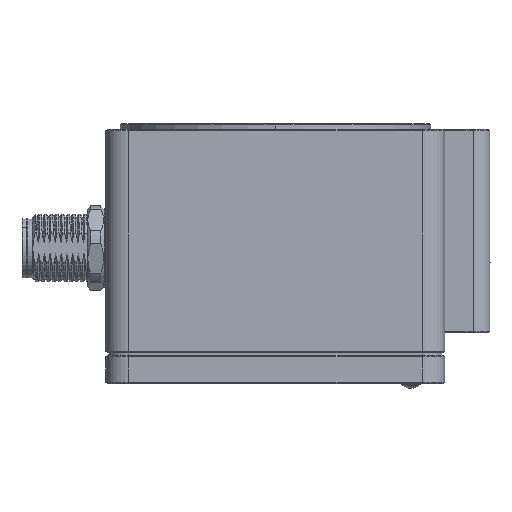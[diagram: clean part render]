
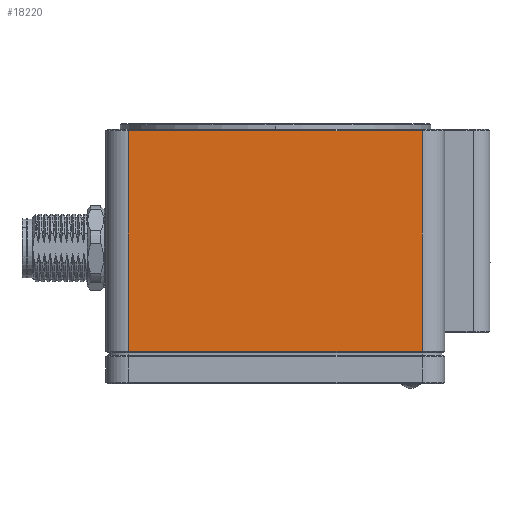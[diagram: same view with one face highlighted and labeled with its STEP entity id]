
A CAD part, left-side view. The second image highlights one B-rep face of the part: STEP entity #18220.
In plain terms, the highlighted planar face has unit normal (-1, 0, 0).
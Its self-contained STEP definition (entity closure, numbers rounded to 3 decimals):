
#2843=DIRECTION('',(0.,0.,1.));
#2844=VECTOR('',#2843,39.1);
#2845=CARTESIAN_POINT('',(-30.,-26.,
-29.3));
#2846=LINE('',#2845,#2844);
#2857=DIRECTION('',(0.,1.,0.));
#2858=VECTOR('',#2857,52.);
#2859=CARTESIAN_POINT('',(-30.,-26.,
-29.3));
#2860=LINE('',#2859,#2858);
#2864=DIRECTION('',(0.,0.,1.));
#2865=VECTOR('',#2864,39.1);
#2866=CARTESIAN_POINT('',(-30.,26.,
-29.3));
#2867=LINE('',#2866,#2865);
#2885=DIRECTION('',(0.,1.,0.));
#2886=VECTOR('',#2885,52.);
#2887=CARTESIAN_POINT('',(-30.,-26.,
9.8));
#2888=LINE('',#2887,#2886);
#13701=CARTESIAN_POINT('',(-30.,26.,
9.8));
#13702=VERTEX_POINT('',#13701);
#13703=CARTESIAN_POINT('',(-30.,-26.,
9.8));
#13704=VERTEX_POINT('',#13703);
#13705=CARTESIAN_POINT('',(-30.,-26.,-29.3));
#13706=VERTEX_POINT('',#13705);
#13751=CARTESIAN_POINT('',(-30.,26.,-29.3));
#13752=VERTEX_POINT('',#13751);
#18207=CARTESIAN_POINT('',(-30.,30.,-27.));
#18208=DIRECTION('',(-1.,0.,0.));
#18209=DIRECTION('',(0.,-1.,0.));
#18210=AXIS2_PLACEMENT_3D('',#18207,#18208,#18209);
#18211=PLANE('',#18210);
#18213=ORIENTED_EDGE('',*,*,#18212,.T.);
#18214=ORIENTED_EDGE('',*,*,#17640,.T.);
#18216=ORIENTED_EDGE('',*,*,#18215,.F.);
#18217=ORIENTED_EDGE('',*,*,#18192,.F.);
#18218=EDGE_LOOP('',(#18213,#18214,#18216,#18217));
#18219=FACE_OUTER_BOUND('',#18218,.F.);
#18220=ADVANCED_FACE('',(#18219),#18211,.T.);
#17640=EDGE_CURVE('',#13752,#13702,#2867,.T.);
#18192=EDGE_CURVE('',#13706,#13704,#2846,.T.);
#18212=EDGE_CURVE('',#13706,#13752,#2860,.T.);
#18215=EDGE_CURVE('',#13704,#13702,#2888,.T.);
